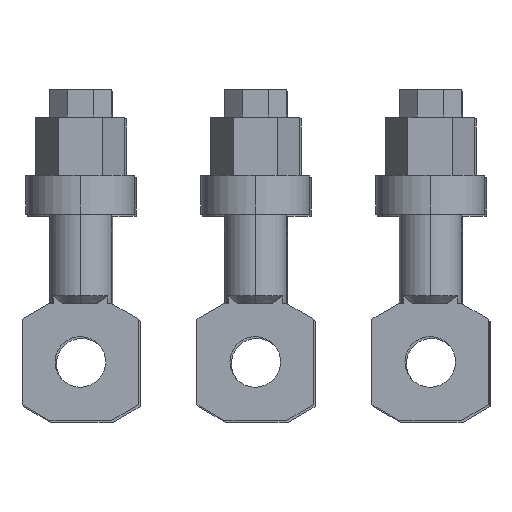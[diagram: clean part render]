
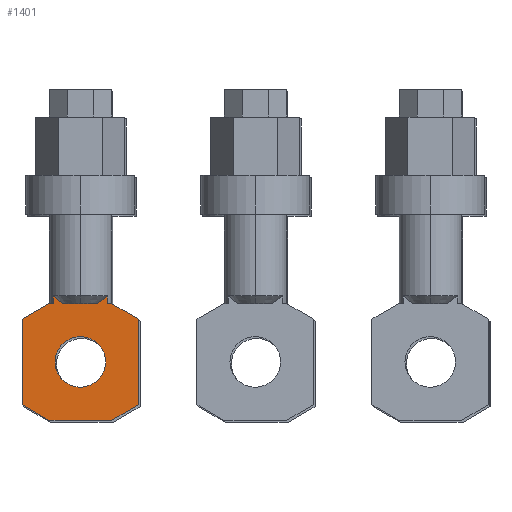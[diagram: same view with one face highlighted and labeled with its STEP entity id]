
A CAD part, front view. The second image highlights one B-rep face of the part: STEP entity #1401.
In plain terms, the highlighted planar face has unit normal (0, -1, 0) as drawn and (0, 0, 1) by its records, which use the part's own axes.
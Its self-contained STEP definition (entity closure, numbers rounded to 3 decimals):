
#3 = VERTEX_POINT ( 'NONE', #869 ) ;
#25 = ORIENTED_EDGE ( 'NONE', *, *, #1125, .F. ) ;
#48 = CARTESIAN_POINT ( 'NONE',  ( 6.13, -53.691, 4. ) ) ;
#59 = ORIENTED_EDGE ( 'NONE', *, *, #922, .T. ) ;
#72 = EDGE_CURVE ( 'NONE', #601, #603, #266, .T. ) ;
#75 = ORIENTED_EDGE ( 'NONE', *, *, #1284, .T. ) ;
#87 = ORIENTED_EDGE ( 'NONE', *, *, #358, .T. ) ;
#97 = ORIENTED_EDGE ( 'NONE', *, *, #72, .T. ) ;
#102 = CARTESIAN_POINT ( 'NONE',  ( 0., 0., 4. ) ) ;
#109 = LINE ( 'NONE', #1308, #1337 ) ;
#111 = CARTESIAN_POINT ( 'NONE',  ( 0., -70., 4. ) ) ;
#112 = VECTOR ( 'NONE', #834, 1000. ) ;
#150 = EDGE_CURVE ( 'NONE', #603, #159, #908, .T. ) ;
#159 = VERTEX_POINT ( 'NONE', #825 ) ;
#170 = CARTESIAN_POINT ( 'NONE',  ( -8.072, -55., 4. ) ) ;
#204 = ORIENTED_EDGE ( 'NONE', *, *, #987, .T. ) ;
#217 = VECTOR ( 'NONE', #1014, 1000. ) ;
#221 = CARTESIAN_POINT ( 'NONE',  ( -15., -81., 4. ) ) ;
#231 = ORIENTED_EDGE ( 'NONE', *, *, #1482, .T. ) ;
#237 = ORIENTED_EDGE ( 'NONE', *, *, #1330, .F. ) ;
#256 = LINE ( 'NONE', #382, #1183 ) ;
#266 = LINE ( 'NONE', #170, #1270 ) ;
#277 = VERTEX_POINT ( 'NONE', #1051 ) ;
#281 = CARTESIAN_POINT ( 'NONE',  ( -6.5, -70., 4. ) ) ;
#284 = CARTESIAN_POINT ( 'NONE',  ( 0., -70., 4. ) ) ;
#331 = VERTEX_POINT ( 'NONE', #571 ) ;
#337 = B_SPLINE_CURVE_WITH_KNOTS ( 'NONE', 3,
 ( #1449, #48, #710, #1075 ),
 .UNSPECIFIED., .F., .F.,
 ( 4, 4 ),
 ( 0., 0.003 ),
 .UNSPECIFIED. ) ;
#341 = DIRECTION ( 'NONE',  ( 1., 0., 0. ) ) ;
#357 = DIRECTION ( 'NONE',  ( 0.866, -0.5, 0. ) ) ;
#358 = EDGE_CURVE ( 'NONE', #3, #1464, #109, .T. ) ;
#362 = DIRECTION ( 'NONE',  ( -0.866, -0.5, 0. ) ) ;
#374 = CARTESIAN_POINT ( 'NONE',  ( 6.928, -55., 4. ) ) ;
#375 = EDGE_CURVE ( 'NONE', #788, #1024, #808, .T. ) ;
#378 = LINE ( 'NONE', #1254, #217 ) ;
#382 = CARTESIAN_POINT ( 'NONE',  ( 15., -59., 4. ) ) ;
#386 = VERTEX_POINT ( 'NONE', #221 ) ;
#414 = VECTOR ( 'NONE', #558, 1000. ) ;
#419 = LINE ( 'NONE', #818, #632 ) ;
#428 = EDGE_CURVE ( 'NONE', #277, #3, #1207, .T. ) ;
#433 = ORIENTED_EDGE ( 'NONE', *, *, #375, .F. ) ;
#471 = VECTOR ( 'NONE', #760, 1000. ) ;
#487 = LINE ( 'NONE', #1368, #999 ) ;
#514 = VERTEX_POINT ( 'NONE', #374 ) ;
#518 = CARTESIAN_POINT ( 'NONE',  ( -6.928, -55., 4. ) ) ;
#521 = DIRECTION ( 'NONE',  ( -1., 0., 0. ) ) ;
#558 = DIRECTION ( 'NONE',  ( 0., -1., 0. ) ) ;
#571 = CARTESIAN_POINT ( 'NONE',  ( 6.928, -53., 4. ) ) ;
#601 = VERTEX_POINT ( 'NONE', #609 ) ;
#603 = VERTEX_POINT ( 'NONE', #1107 ) ;
#609 = CARTESIAN_POINT ( 'NONE',  ( 4.472, -55., 4. ) ) ;
#610 = CARTESIAN_POINT ( 'NONE',  ( -8.072, -85., 4. ) ) ;
#618 = AXIS2_PLACEMENT_3D ( 'NONE', #284, #1122, #867 ) ;
#632 = VECTOR ( 'NONE', #357, 1000. ) ;
#644 = ORIENTED_EDGE ( 'NONE', *, *, #428, .T. ) ;
#650 = CARTESIAN_POINT ( 'NONE',  ( -8.072, -85., 4. ) ) ;
#659 = EDGE_CURVE ( 'NONE', #1024, #788, #989, .T. ) ;
#663 = CARTESIAN_POINT ( 'NONE',  ( -6.13, -53.691, 4. ) ) ;
#710 = CARTESIAN_POINT ( 'NONE',  ( 5.319, -54.368, 4. ) ) ;
#726 = LINE ( 'NONE', #1180, #934 ) ;
#739 = VERTEX_POINT ( 'NONE', #650 ) ;
#760 = DIRECTION ( 'NONE',  ( 0., 1., 0. ) ) ;
#775 = CARTESIAN_POINT ( 'NONE',  ( -6.928, -55., 4. ) ) ;
#788 = VERTEX_POINT ( 'NONE', #1041 ) ;
#806 = VECTOR ( 'NONE', #1470, 1000. ) ;
#808 = CIRCLE ( 'NONE', #910, 6.5 ) ;
#815 = DIRECTION ( 'NONE',  ( 0., 1., 0. ) ) ;
#818 = CARTESIAN_POINT ( 'NONE',  ( -15., -81., 4. ) ) ;
#823 = ORIENTED_EDGE ( 'NONE', *, *, #150, .T. ) ;
#825 = CARTESIAN_POINT ( 'NONE',  ( -6.928, -53., 4. ) ) ;
#828 = CARTESIAN_POINT ( 'NONE',  ( -8.072, -55., 4. ) ) ;
#834 = DIRECTION ( 'NONE',  ( 0.866, 0.5, 0. ) ) ;
#836 = EDGE_CURVE ( 'NONE', #331, #601, #337, .T. ) ;
#845 = ORIENTED_EDGE ( 'NONE', *, *, #1154, .T. ) ;
#867 = DIRECTION ( 'NONE',  ( 1., 0., 0. ) ) ;
#869 = CARTESIAN_POINT ( 'NONE',  ( 15., -81., 4. ) ) ;
#908 = B_SPLINE_CURVE_WITH_KNOTS ( 'NONE', 3,
 ( #1045, #1410, #663, #1156 ),
 .UNSPECIFIED., .F., .F.,
 ( 4, 4 ),
 ( 0., 0.003 ),
 .UNSPECIFIED. ) ;
#909 = DIRECTION ( 'NONE',  ( 1., 0., 0. ) ) ;
#910 = AXIS2_PLACEMENT_3D ( 'NONE', #111, #915, #341 ) ;
#912 = AXIS2_PLACEMENT_3D ( 'NONE', #102, #1062, #909 ) ;
#915 = DIRECTION ( 'NONE',  ( 0., 0., 1. ) ) ;
#922 = EDGE_CURVE ( 'NONE', #1155, #1311, #1084, .T. ) ;
#929 = CARTESIAN_POINT ( 'NONE',  ( -15., -59., 4. ) ) ;
#934 = VECTOR ( 'NONE', #1187, 1000. ) ;
#948 = VERTEX_POINT ( 'NONE', #1102 ) ;
#966 = EDGE_CURVE ( 'NONE', #1464, #948, #256, .T. ) ;
#987 = EDGE_CURVE ( 'NONE', #739, #277, #1139, .T. ) ;
#989 = CIRCLE ( 'NONE', #618, 6.5 ) ;
#996 = VERTEX_POINT ( 'NONE', #518 ) ;
#999 = VECTOR ( 'NONE', #521, 1000. ) ;
#1014 = DIRECTION ( 'NONE',  ( -1., 0., 0. ) ) ;
#1024 = VERTEX_POINT ( 'NONE', #281 ) ;
#1026 = FACE_BOUND ( 'NONE', #1069, .T. ) ;
#1041 = CARTESIAN_POINT ( 'NONE',  ( 6.5, -70., 4. ) ) ;
#1045 = CARTESIAN_POINT ( 'NONE',  ( -4.472, -55., 4. ) ) ;
#1051 = CARTESIAN_POINT ( 'NONE',  ( 8.072, -85., 4. ) ) ;
#1057 = PLANE ( 'NONE',  #912 ) ;
#1061 = CARTESIAN_POINT ( 'NONE',  ( 8.072, -85., 4. ) ) ;
#1062 = DIRECTION ( 'NONE',  ( 0., 0., 1. ) ) ;
#1069 = EDGE_LOOP ( 'NONE', ( #433, #1450 ) ) ;
#1075 = CARTESIAN_POINT ( 'NONE',  ( 4.472, -55., 4. ) ) ;
#1084 = LINE ( 'NONE', #828, #1123 ) ;
#1089 = LINE ( 'NONE', #929, #414 ) ;
#1102 = CARTESIAN_POINT ( 'NONE',  ( 8.072, -55., 4. ) ) ;
#1107 = CARTESIAN_POINT ( 'NONE',  ( -4.472, -55., 4. ) ) ;
#1122 = DIRECTION ( 'NONE',  ( 0., 0., 1. ) ) ;
#1123 = VECTOR ( 'NONE', #362, 1000. ) ;
#1125 = EDGE_CURVE ( 'NONE', #996, #159, #1293, .T. ) ;
#1139 = LINE ( 'NONE', #610, #806 ) ;
#1141 = CARTESIAN_POINT ( 'NONE',  ( -8.072, -55., 4. ) ) ;
#1146 = ORIENTED_EDGE ( 'NONE', *, *, #966, .T. ) ;
#1154 = EDGE_CURVE ( 'NONE', #996, #1155, #487, .T. ) ;
#1155 = VERTEX_POINT ( 'NONE', #1141 ) ;
#1156 = CARTESIAN_POINT ( 'NONE',  ( -6.928, -53., 4. ) ) ;
#1180 = CARTESIAN_POINT ( 'NONE',  ( 6.928, -53., 4. ) ) ;
#1182 = ORIENTED_EDGE ( 'NONE', *, *, #1322, .T. ) ;
#1183 = VECTOR ( 'NONE', #1349, 1000. ) ;
#1187 = DIRECTION ( 'NONE',  ( 0., -1., 0. ) ) ;
#1207 = LINE ( 'NONE', #1061, #112 ) ;
#1240 = EDGE_LOOP ( 'NONE', ( #59, #1182, #231, #204, #644, #87, #1146, #75, #237, #1466, #97, #823, #25, #845 ) ) ;
#1254 = CARTESIAN_POINT ( 'NONE',  ( -8.072, -55., 4. ) ) ;
#1270 = VECTOR ( 'NONE', #1485, 1000. ) ;
#1284 = EDGE_CURVE ( 'NONE', #948, #514, #378, .T. ) ;
#1293 = LINE ( 'NONE', #775, #471 ) ;
#1308 = CARTESIAN_POINT ( 'NONE',  ( 15., -81., 4. ) ) ;
#1311 = VERTEX_POINT ( 'NONE', #1385 ) ;
#1322 = EDGE_CURVE ( 'NONE', #1311, #386, #1089, .T. ) ;
#1330 = EDGE_CURVE ( 'NONE', #331, #514, #726, .T. ) ;
#1337 = VECTOR ( 'NONE', #815, 1000. ) ;
#1349 = DIRECTION ( 'NONE',  ( -0.866, 0.5, 0. ) ) ;
#1368 = CARTESIAN_POINT ( 'NONE',  ( -8.072, -55., 4. ) ) ;
#1385 = CARTESIAN_POINT ( 'NONE',  ( -15., -59., 4. ) ) ;
#1392 = FACE_OUTER_BOUND ( 'NONE', #1240, .T. ) ;
#1401 = ADVANCED_FACE ( 'NONE', ( #1392, #1026 ), #1057, .T. ) ;
#1410 = CARTESIAN_POINT ( 'NONE',  ( -5.319, -54.368, 4. ) ) ;
#1441 = CARTESIAN_POINT ( 'NONE',  ( 15., -59., 4. ) ) ;
#1449 = CARTESIAN_POINT ( 'NONE',  ( 6.928, -53., 4. ) ) ;
#1450 = ORIENTED_EDGE ( 'NONE', *, *, #659, .F. ) ;
#1464 = VERTEX_POINT ( 'NONE', #1441 ) ;
#1466 = ORIENTED_EDGE ( 'NONE', *, *, #836, .T. ) ;
#1470 = DIRECTION ( 'NONE',  ( 1., 0., 0. ) ) ;
#1482 = EDGE_CURVE ( 'NONE', #386, #739, #419, .T. ) ;
#1485 = DIRECTION ( 'NONE',  ( -1., 0., 0. ) ) ;
